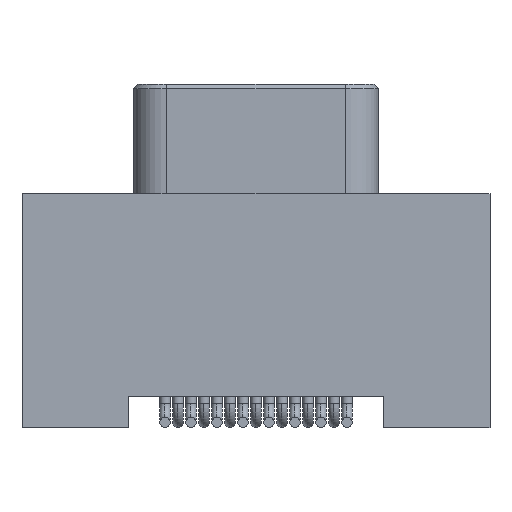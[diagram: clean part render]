
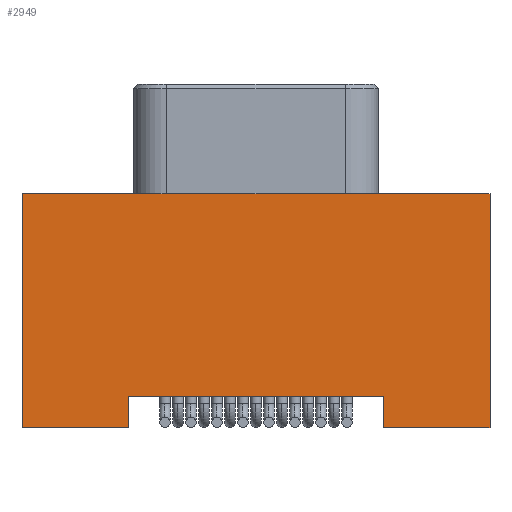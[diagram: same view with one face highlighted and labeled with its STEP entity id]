
A CAD part, front view. The second image highlights one B-rep face of the part: STEP entity #2949.
In plain terms, the highlighted planar face has unit normal (0, -1, 0).
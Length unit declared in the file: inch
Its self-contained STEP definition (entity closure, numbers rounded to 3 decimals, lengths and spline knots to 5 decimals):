
#630 = VECTOR ( 'NONE', #24362, 39.37008 ) ;
#759 = PLANE ( 'NONE',  #7963 ) ;
#861 = EDGE_CURVE ( 'NONE', #2488, #13697, #9565, .T. ) ;
#1352 = CARTESIAN_POINT ( 'NONE',  ( -0.225, -0.0575, -0.33 ) ) ;
#1471 = CARTESIAN_POINT ( 'NONE',  ( -0.225, -0.0575, -0.33 ) ) ;
#1779 = LINE ( 'NONE', #1471, #22288 ) ;
#1853 = ORIENTED_EDGE ( 'NONE', *, *, #17060, .T. ) ;
#2488 = VERTEX_POINT ( 'NONE', #11374 ) ;
#2834 = EDGE_CURVE ( 'NONE', #11417, #25628, #21147, .T. ) ;
#2880 = DIRECTION ( 'NONE',  ( 1., 0., 0. ) ) ;
#2949 = ADVANCED_FACE ( 'NONE', ( #19911 ), #759, .T. ) ;
#3424 = ORIENTED_EDGE ( 'NONE', *, *, #10835, .F. ) ;
#3580 = DIRECTION ( 'NONE',  ( 0., 0., -1. ) ) ;
#4812 = DIRECTION ( 'NONE',  ( 0., -1., 0. ) ) ;
#5384 = DIRECTION ( 'NONE',  ( 1., 0., 0. ) ) ;
#6732 = CARTESIAN_POINT ( 'NONE',  ( -0.225, -0.0575, -0.33 ) ) ;
#6758 = VECTOR ( 'NONE', #7751, 39.37008 ) ;
#7353 = CARTESIAN_POINT ( 'NONE',  ( -0.225, -0.0575, -0.33 ) ) ;
#7751 = DIRECTION ( 'NONE',  ( -1., 0., 0. ) ) ;
#7963 = AXIS2_PLACEMENT_3D ( 'NONE', #6732, #4812, #18654 ) ;
#8102 = ORIENTED_EDGE ( 'NONE', *, *, #16423, .T. ) ;
#8550 = VECTOR ( 'NONE', #25748, 39.37008 ) ;
#9147 = LINE ( 'NONE', #23773, #8550 ) ;
#9345 = DIRECTION ( 'NONE',  ( 0., 0., -1. ) ) ;
#9516 = CARTESIAN_POINT ( 'NONE',  ( 0.1225, -0.0575, -0.3 ) ) ;
#9565 = LINE ( 'NONE', #9516, #15432 ) ;
#10176 = VERTEX_POINT ( 'NONE', #7353 ) ;
#10835 = EDGE_CURVE ( 'NONE', #11526, #25718, #15336, .T. ) ;
#11374 = CARTESIAN_POINT ( 'NONE',  ( 0.1225, -0.0575, -0.3 ) ) ;
#11378 = LINE ( 'NONE', #19603, #6758 ) ;
#11409 = ORIENTED_EDGE ( 'NONE', *, *, #20065, .F. ) ;
#11417 = VERTEX_POINT ( 'NONE', #15146 ) ;
#11526 = VERTEX_POINT ( 'NONE', #16147 ) ;
#12496 = CARTESIAN_POINT ( 'NONE',  ( 0.225, -0.0575, -0.33 ) ) ;
#13697 = VERTEX_POINT ( 'NONE', #19447 ) ;
#14063 = LINE ( 'NONE', #1352, #18704 ) ;
#14763 = CARTESIAN_POINT ( 'NONE',  ( -0.225, -0.0575, -0.33 ) ) ;
#15146 = CARTESIAN_POINT ( 'NONE',  ( 0.225, -0.0575, -0.33 ) ) ;
#15327 = VECTOR ( 'NONE', #2880, 39.37008 ) ;
#15336 = LINE ( 'NONE', #23424, #20015 ) ;
#15398 = CARTESIAN_POINT ( 'NONE',  ( 0.225, -0.0575, -0.105 ) ) ;
#15432 = VECTOR ( 'NONE', #9345, 39.37008 ) ;
#15755 = CARTESIAN_POINT ( 'NONE',  ( -0.1225, -0.0575, -0.33 ) ) ;
#16147 = CARTESIAN_POINT ( 'NONE',  ( -0.1225, -0.0575, -0.3 ) ) ;
#16423 = EDGE_CURVE ( 'NONE', #25628, #17913, #9147, .T. ) ;
#16954 = ORIENTED_EDGE ( 'NONE', *, *, #2834, .T. ) ;
#17060 = EDGE_CURVE ( 'NONE', #13697, #11417, #14063, .T. ) ;
#17913 = VERTEX_POINT ( 'NONE', #20411 ) ;
#18654 = DIRECTION ( 'NONE',  ( 0., 0., -1. ) ) ;
#18704 = VECTOR ( 'NONE', #5384, 39.37008 ) ;
#19447 = CARTESIAN_POINT ( 'NONE',  ( 0.1225, -0.0575, -0.33 ) ) ;
#19603 = CARTESIAN_POINT ( 'NONE',  ( 0.1225, -0.0575, -0.3 ) ) ;
#19874 = ORIENTED_EDGE ( 'NONE', *, *, #21203, .F. ) ;
#19911 = FACE_OUTER_BOUND ( 'NONE', #24600, .T. ) ;
#20015 = VECTOR ( 'NONE', #3580, 39.37008 ) ;
#20065 = EDGE_CURVE ( 'NONE', #10176, #17913, #1779, .T. ) ;
#20411 = CARTESIAN_POINT ( 'NONE',  ( -0.225, -0.0575, -0.105 ) ) ;
#21147 = LINE ( 'NONE', #12496, #630 ) ;
#21203 = EDGE_CURVE ( 'NONE', #2488, #11526, #11378, .T. ) ;
#21355 = DIRECTION ( 'NONE',  ( 0., 0., 1. ) ) ;
#21721 = ORIENTED_EDGE ( 'NONE', *, *, #23630, .T. ) ;
#22288 = VECTOR ( 'NONE', #21355, 39.37008 ) ;
#23424 = CARTESIAN_POINT ( 'NONE',  ( -0.1225, -0.0575, -0.3 ) ) ;
#23630 = EDGE_CURVE ( 'NONE', #10176, #25718, #25248, .T. ) ;
#23773 = CARTESIAN_POINT ( 'NONE',  ( -0.225, -0.0575, -0.105 ) ) ;
#24362 = DIRECTION ( 'NONE',  ( 0., 0., 1. ) ) ;
#24531 = ORIENTED_EDGE ( 'NONE', *, *, #861, .T. ) ;
#24600 = EDGE_LOOP ( 'NONE', ( #24531, #1853, #16954, #8102, #11409, #21721, #3424, #19874 ) ) ;
#25248 = LINE ( 'NONE', #14763, #15327 ) ;
#25628 = VERTEX_POINT ( 'NONE', #15398 ) ;
#25718 = VERTEX_POINT ( 'NONE', #15755 ) ;
#25748 = DIRECTION ( 'NONE',  ( -1., 0., 0. ) ) ;
